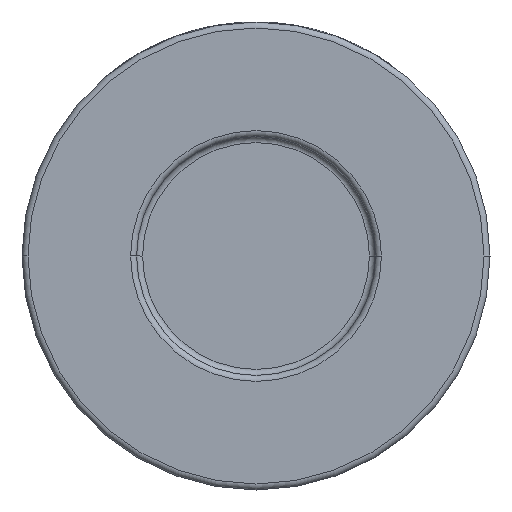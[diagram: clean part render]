
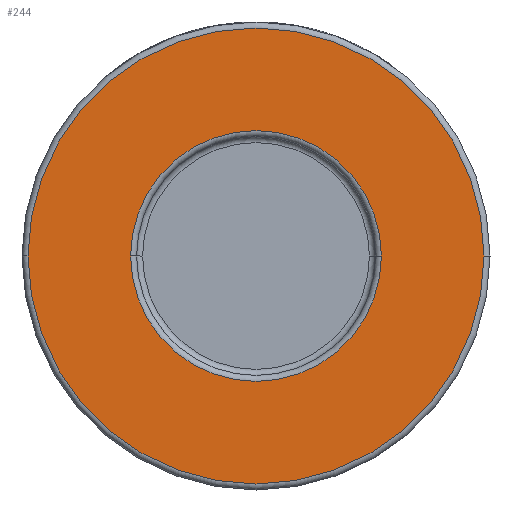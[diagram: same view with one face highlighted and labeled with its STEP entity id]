
A CAD part, front view. The second image highlights one B-rep face of the part: STEP entity #244.
In plain terms, the highlighted planar face has unit normal (0, -1, 0).
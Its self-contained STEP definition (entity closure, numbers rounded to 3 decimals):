
#19 = DIRECTION ( 'NONE',  ( 1., 0., 0. ) ) ;
#95 = VERTEX_POINT ( 'NONE', #626 ) ;
#96 = CARTESIAN_POINT ( 'NONE',  ( 39., -26., 0. ) ) ;
#116 = ORIENTED_EDGE ( 'NONE', *, *, #1494, .T. ) ;
#231 = DIRECTION ( 'NONE',  ( 1., 0., 0. ) ) ;
#244 = ADVANCED_FACE ( 'NONE', ( #1584, #4012 ), #2953, .T. ) ;
#371 = DIRECTION ( 'NONE',  ( 0., -1., 0. ) ) ;
#382 = VERTEX_POINT ( 'NONE', #900 ) ;
#525 = ORIENTED_EDGE ( 'NONE', *, *, #2397, .T. ) ;
#590 = AXIS2_PLACEMENT_3D ( 'NONE', #1005, #3109, #231 ) ;
#626 = CARTESIAN_POINT ( 'NONE',  ( 38., -26., 0. ) ) ;
#900 = CARTESIAN_POINT ( 'NONE',  ( -20.9, -26., 0. ) ) ;
#1005 = CARTESIAN_POINT ( 'NONE',  ( 0., -26., 0. ) ) ;
#1028 = DIRECTION ( 'NONE',  ( 1., 0., 0. ) ) ;
#1233 = DIRECTION ( 'NONE',  ( 1., 0., 0. ) ) ;
#1494 = EDGE_CURVE ( 'NONE', #382, #3287, #2918, .T. ) ;
#1584 = FACE_BOUND ( 'NONE', #4040, .T. ) ;
#2081 = DIRECTION ( 'NONE',  ( 0., 1., 0. ) ) ;
#2169 = CARTESIAN_POINT ( 'NONE',  ( 0., -26., 0. ) ) ;
#2175 = VERTEX_POINT ( 'NONE', #3070 ) ;
#2397 = EDGE_CURVE ( 'NONE', #95, #2175, #2788, .T. ) ;
#2416 = CARTESIAN_POINT ( 'NONE',  ( 0., -26., 0. ) ) ;
#2506 = CARTESIAN_POINT ( 'NONE',  ( 20.9, -26., 0. ) ) ;
#2788 = CIRCLE ( 'NONE', #2927, 38. ) ;
#2918 = CIRCLE ( 'NONE', #590, 20.9 ) ;
#2927 = AXIS2_PLACEMENT_3D ( 'NONE', #3878, #4633, #1028 ) ;
#2953 = PLANE ( 'NONE',  #4022 ) ;
#3053 = DIRECTION ( 'NONE',  ( 0., -1., 0. ) ) ;
#3070 = CARTESIAN_POINT ( 'NONE',  ( -38., -26., 0. ) ) ;
#3109 = DIRECTION ( 'NONE',  ( 0., 1., 0. ) ) ;
#3173 = EDGE_CURVE ( 'NONE', #3287, #382, #3914, .T. ) ;
#3287 = VERTEX_POINT ( 'NONE', #2506 ) ;
#3294 = EDGE_CURVE ( 'NONE', #2175, #95, #3734, .T. ) ;
#3493 = DIRECTION ( 'NONE',  ( 1., 0., 0. ) ) ;
#3677 = AXIS2_PLACEMENT_3D ( 'NONE', #2416, #2081, #3493 ) ;
#3734 = CIRCLE ( 'NONE', #3892, 38. ) ;
#3878 = CARTESIAN_POINT ( 'NONE',  ( 0., -26., 0. ) ) ;
#3892 = AXIS2_PLACEMENT_3D ( 'NONE', #2169, #371, #19 ) ;
#3914 = CIRCLE ( 'NONE', #3677, 20.9 ) ;
#4012 = FACE_OUTER_BOUND ( 'NONE', #4408, .T. ) ;
#4022 = AXIS2_PLACEMENT_3D ( 'NONE', #96, #3053, #1233 ) ;
#4040 = EDGE_LOOP ( 'NONE', ( #4595, #116 ) ) ;
#4408 = EDGE_LOOP ( 'NONE', ( #525, #4413 ) ) ;
#4413 = ORIENTED_EDGE ( 'NONE', *, *, #3294, .T. ) ;
#4595 = ORIENTED_EDGE ( 'NONE', *, *, #3173, .T. ) ;
#4633 = DIRECTION ( 'NONE',  ( 0., -1., 0. ) ) ;
